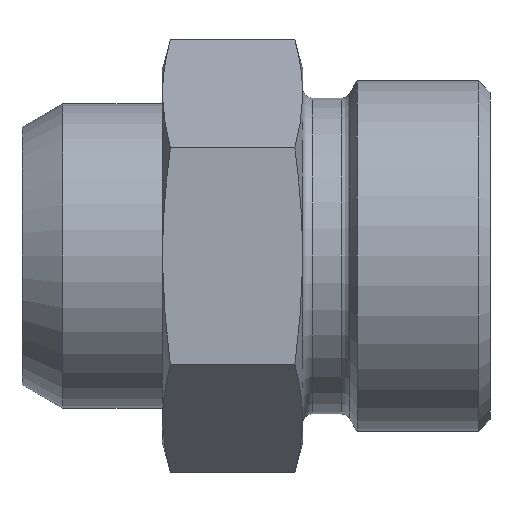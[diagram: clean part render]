
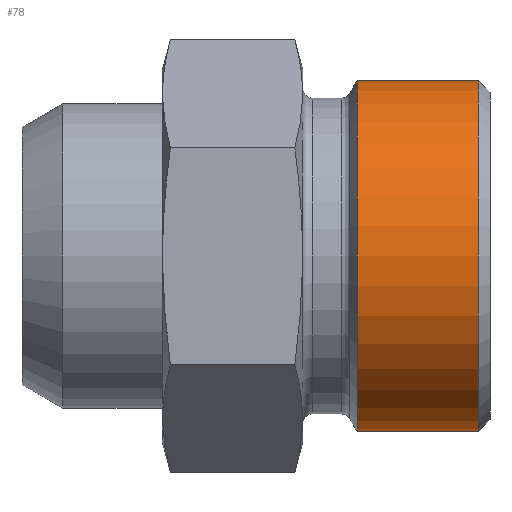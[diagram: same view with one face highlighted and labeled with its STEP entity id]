
A CAD part, front view. The second image highlights one B-rep face of the part: STEP entity #78.
In plain terms, the highlighted cylindrical face has radius 15 mm (diameter 30 mm), a full revolution.
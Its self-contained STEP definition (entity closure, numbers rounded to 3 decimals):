
#78 = ADVANCED_FACE( '', ( #167, #168 ), #169, .T. );
#167 = FACE_OUTER_BOUND( '', #264, .T. );
#168 = FACE_OUTER_BOUND( '', #265, .T. );
#169 = CYLINDRICAL_SURFACE( '', #266, 15. );
#264 = EDGE_LOOP( '', ( #413 ) );
#265 = EDGE_LOOP( '', ( #414 ) );
#266 = AXIS2_PLACEMENT_3D( '', #415, #416, #417 );
#413 = ORIENTED_EDGE( '', *, *, #512, .T. );
#414 = ORIENTED_EDGE( '', *, *, #503, .F. );
#415 = CARTESIAN_POINT( '', ( -60., 0., 0. ) );
#416 = DIRECTION( '', ( 1., 0., 0. ) );
#417 = DIRECTION( '', ( 0., 0., 1. ) );
#503 = EDGE_CURVE( '', #584, #584, #585, .T. );
#512 = EDGE_CURVE( '', #595, #595, #596, .T. );
#584 = VERTEX_POINT( '', #776 );
#585 = CIRCLE( '', #777, 15. );
#595 = VERTEX_POINT( '', #789 );
#596 = CIRCLE( '', #790, 15. );
#776 = CARTESIAN_POINT( '', ( -11.365, 0., 15. ) );
#777 = AXIS2_PLACEMENT_3D( '', #841, #842, #843 );
#789 = CARTESIAN_POINT( '', ( -1., 0., 15. ) );
#790 = AXIS2_PLACEMENT_3D( '', #849, #850, #851 );
#841 = CARTESIAN_POINT( '', ( -11.365, 0., 0. ) );
#842 = DIRECTION( '', ( -1., 0., 0. ) );
#843 = DIRECTION( '', ( 0., 0., 1. ) );
#849 = CARTESIAN_POINT( '', ( -1., 0., 0. ) );
#850 = DIRECTION( '', ( -1., 0., 0. ) );
#851 = DIRECTION( '', ( 0., 0., 1. ) );
